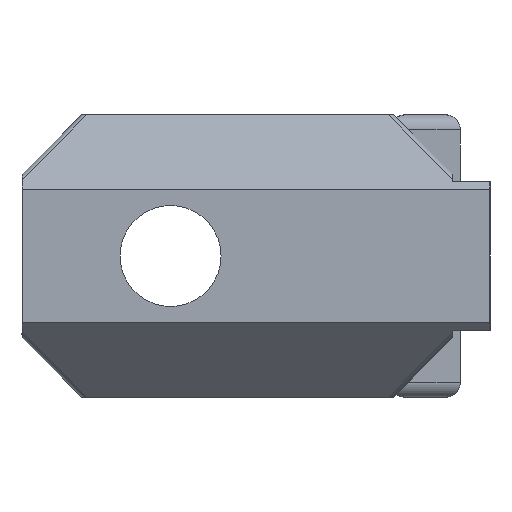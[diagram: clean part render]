
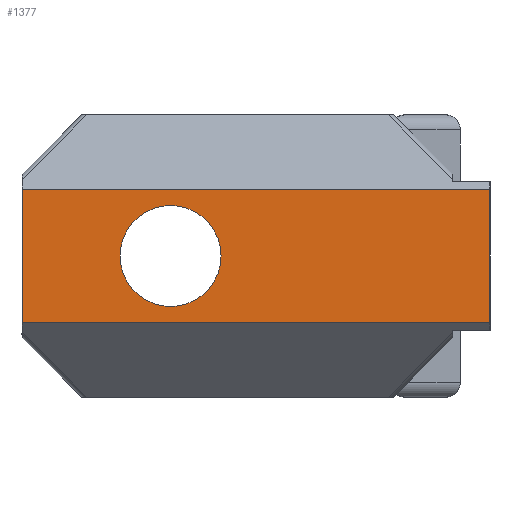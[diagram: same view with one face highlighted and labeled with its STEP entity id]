
A CAD part, left-side view. The second image highlights one B-rep face of the part: STEP entity #1377.
In plain terms, the highlighted planar face has unit normal (-1, 0, 0).
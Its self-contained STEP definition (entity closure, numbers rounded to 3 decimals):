
#49 = EDGE_LOOP ( 'NONE', ( #1443, #920, #1206, #846 ) ) ;
#111 = DIRECTION ( 'NONE',  ( 0., 0., -1. ) ) ;
#178 = VERTEX_POINT ( 'NONE', #1080 ) ;
#186 = CIRCLE ( 'NONE', #569, 3.4 ) ;
#191 = EDGE_CURVE ( 'NONE', #696, #1330, #1160, .T. ) ;
#197 = DIRECTION ( 'NONE',  ( 1., 0., 0. ) ) ;
#202 = LINE ( 'NONE', #509, #824 ) ;
#208 = VECTOR ( 'NONE', #470, 1000. ) ;
#291 = FACE_OUTER_BOUND ( 'NONE', #49, .T. ) ;
#355 = CARTESIAN_POINT ( 'NONE',  ( 0., 31.5, 4.5 ) ) ;
#357 = ORIENTED_EDGE ( 'NONE', *, *, #814, .T. ) ;
#380 = EDGE_CURVE ( 'NONE', #1330, #178, #1455, .T. ) ;
#451 = VERTEX_POINT ( 'NONE', #1532 ) ;
#463 = DIRECTION ( 'NONE',  ( 0., -1., 0. ) ) ;
#470 = DIRECTION ( 'NONE',  ( 0., 0., -1. ) ) ;
#490 = CARTESIAN_POINT ( 'NONE',  ( 0., 31.5, 5. ) ) ;
#509 = CARTESIAN_POINT ( 'NONE',  ( 0., 0., 5. ) ) ;
#569 = AXIS2_PLACEMENT_3D ( 'NONE', #1380, #642, #1502 ) ;
#625 = CIRCLE ( 'NONE', #1345, 3.4 ) ;
#634 = VERTEX_POINT ( 'NONE', #1081 ) ;
#642 = DIRECTION ( 'NONE',  ( 1., 0., 0. ) ) ;
#688 = PLANE ( 'NONE',  #1334 ) ;
#696 = VERTEX_POINT ( 'NONE', #355 ) ;
#697 = EDGE_CURVE ( 'NONE', #451, #634, #625, .T. ) ;
#708 = CARTESIAN_POINT ( 'NONE',  ( 0., 2.5, -4.5 ) ) ;
#727 = FACE_BOUND ( 'NONE', #1393, .T. ) ;
#761 = VECTOR ( 'NONE', #1006, 1000. ) ;
#814 = EDGE_CURVE ( 'NONE', #634, #451, #186, .T. ) ;
#824 = VECTOR ( 'NONE', #1499, 1000. ) ;
#846 = ORIENTED_EDGE ( 'NONE', *, *, #855, .T. ) ;
#853 = DIRECTION ( 'NONE',  ( 1., 0., 0. ) ) ;
#855 = EDGE_CURVE ( 'NONE', #1230, #696, #1453, .T. ) ;
#920 = ORIENTED_EDGE ( 'NONE', *, *, #380, .T. ) ;
#928 = CARTESIAN_POINT ( 'NONE',  ( 0., 31.5, -4.5 ) ) ;
#1006 = DIRECTION ( 'NONE',  ( 0., 1., 0. ) ) ;
#1068 = DIRECTION ( 'NONE',  ( 0., 0., -1. ) ) ;
#1076 = EDGE_CURVE ( 'NONE', #1230, #178, #202, .T. ) ;
#1080 = CARTESIAN_POINT ( 'NONE',  ( 0., 0., -4.5 ) ) ;
#1081 = CARTESIAN_POINT ( 'NONE',  ( 0., 21.5, 3.4 ) ) ;
#1127 = CARTESIAN_POINT ( 'NONE',  ( 0., 31.5, 4.5 ) ) ;
#1160 = LINE ( 'NONE', #490, #208 ) ;
#1206 = ORIENTED_EDGE ( 'NONE', *, *, #1076, .F. ) ;
#1230 = VERTEX_POINT ( 'NONE', #1329 ) ;
#1318 = CARTESIAN_POINT ( 'NONE',  ( 0., 0., 5. ) ) ;
#1329 = CARTESIAN_POINT ( 'NONE',  ( 0., 0., 4.5 ) ) ;
#1330 = VERTEX_POINT ( 'NONE', #928 ) ;
#1334 = AXIS2_PLACEMENT_3D ( 'NONE', #1318, #197, #1068 ) ;
#1345 = AXIS2_PLACEMENT_3D ( 'NONE', #1585, #853, #111 ) ;
#1377 = ADVANCED_FACE ( 'NONE', ( #727, #291 ), #688, .F. ) ;
#1380 = CARTESIAN_POINT ( 'NONE',  ( 0., 21.5, 0. ) ) ;
#1393 = EDGE_LOOP ( 'NONE', ( #1448, #357 ) ) ;
#1423 = VECTOR ( 'NONE', #463, 1000. ) ;
#1443 = ORIENTED_EDGE ( 'NONE', *, *, #191, .T. ) ;
#1448 = ORIENTED_EDGE ( 'NONE', *, *, #697, .T. ) ;
#1453 = LINE ( 'NONE', #1127, #761 ) ;
#1455 = LINE ( 'NONE', #708, #1423 ) ;
#1499 = DIRECTION ( 'NONE',  ( 0., 0., -1. ) ) ;
#1502 = DIRECTION ( 'NONE',  ( 0., 0., -1. ) ) ;
#1532 = CARTESIAN_POINT ( 'NONE',  ( 0., 21.5, -3.4 ) ) ;
#1585 = CARTESIAN_POINT ( 'NONE',  ( 0., 21.5, 0. ) ) ;
